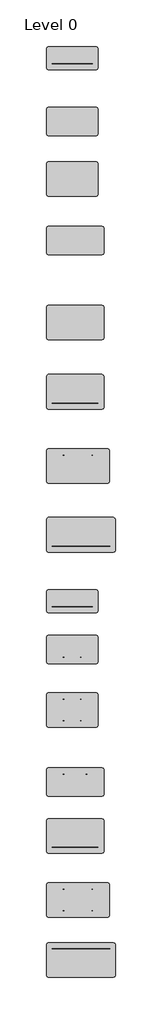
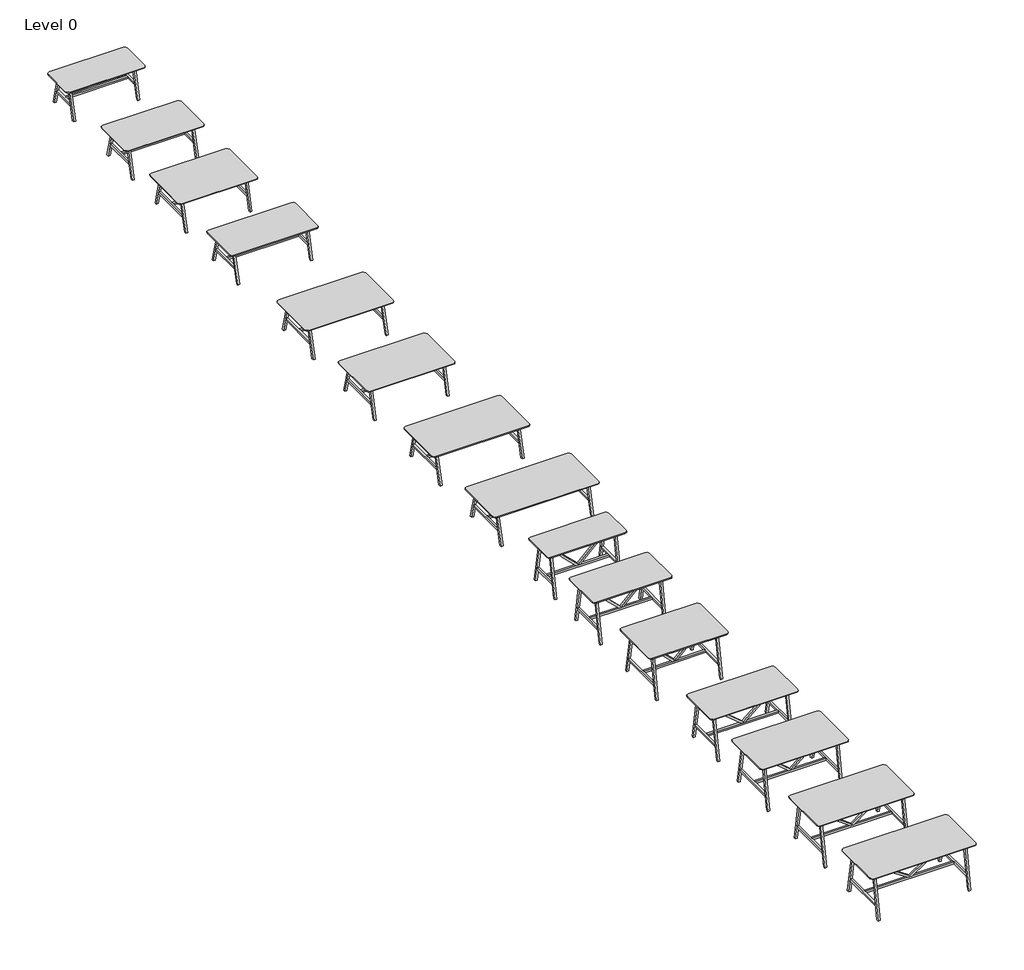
# One storey: 30 furniture elements.
"""IFC4 building model written with IfcOpenShell, lengths in millimetres."""

from ifc_helpers import new_model, si_unit, origin, place, context, project, spatial, transform, mapped, element, save
from components import furniture_91abc4a6, furniture_c43a80fd, furniture_95165e4f, furniture_568c04c6, furniture_3deafaf1, furniture_71a5d85f, furniture_51e321d0, furniture_c8895cdd, furniture_39fc326c, furniture_f843278e, furniture_71caf283, furniture_14f1f2da, furniture_3e2e6405, furniture_59f9e878, standard_d1606fe0, standard_caf0e5b7, standard_5c13200c, standard_55bfc8dd, standard_36c426fe, standard_6c16a902, standard_f65d799b

model = new_model("IFC4")

# Units and contexts
model_context = context("Model", 3, world=origin())
ifc_project = project(units=[si_unit("LENGTHUNIT", "METRE", prefix="MILLI")], contexts=[model_context])

# Site, building, storey
site = spatial("IfcSite", under=ifc_project)
building = spatial("IfcBuilding", under=site)
storey = spatial("IfcBuildingStorey", under=building, Name="Level 0", Elevation=0.0)

# Furniture
placement = place(None, origin())
furniture_shape = furniture_91abc4a6(model_context)
element("IfcFurniture", 1, ObjectType="BDG_BossDesign_Tbls_AgentTables4Legs : AGE-DT-1800-800-3D", at=placement, inside=storey, context=model_context, shape_type="MappedRepresentation", body=[
    mapped(furniture_shape, transform((-98139.9901916, 51070.7688672, 0.0), x_axis=(1.0, 0.0, 0.0), y_axis=(0.0, 1.0, 0.0), z_axis=(0.0, 0.0, 1.0))),
])
furniture_2_shape = furniture_c43a80fd(model_context)
element("IfcFurniture", 2, ObjectType="BDG_BossDesign_Tbls_AgentTables4Legs : AGE-DT-1800-1000-3D", at=placement, inside=storey, context=model_context, shape_type="MappedRepresentation", body=[
    mapped(furniture_2_shape, transform((-98139.9901916, 48865.2296395, 0.0), x_axis=(1.0, 0.0, 0.0), y_axis=(0.0, 1.0, 0.0), z_axis=(0.0, 0.0, 1.0))),
])
furniture_3_shape = furniture_95165e4f(model_context)
element("IfcFurniture", 3, ObjectType="BDG_BossDesign_Tbls_AgentTables4Legs : AGE-DT-2000-1000-3D", at=placement, inside=storey, context=model_context, shape_type="MappedRepresentation", body=[
    mapped(furniture_3_shape, transform((-98039.9901916, 44730.9323749, 0.0), x_axis=(1.0, 0.0, 0.0), y_axis=(0.0, 1.0, 0.0), z_axis=(0.0, 0.0, 1.0))),
])
furniture_4_shape = furniture_568c04c6(model_context)
element("IfcFurniture", 4, ObjectType="BDG_BossDesign_Tbls_AgentTables4Legs : AGE-DT-1800-1200-3D", at=placement, inside=storey, context=model_context, shape_type="MappedRepresentation", body=[
    mapped(furniture_4_shape, transform((-98139.9901916, 46872.7972228, 0.0), x_axis=(1.0, 0.0, 0.0), y_axis=(0.0, 1.0, 0.0), z_axis=(0.0, 0.0, 1.0))),
])
furniture_5_shape = furniture_3deafaf1(model_context)
element("IfcFurniture", 5, ObjectType="BDG_BossDesign_Tbls_AgentTables4Legs : AGE-DT-2000-1200-3D", at=placement, inside=storey, context=model_context, shape_type="MappedRepresentation", body=[
    mapped(furniture_5_shape, transform((-98039.9901916, 41879.2634785, 0.0), x_axis=(1.0, 0.0, 0.0), y_axis=(0.0, 1.0, 0.0), z_axis=(0.0, 0.0, 1.0))),
])
element("IfcFurniture", 6, ObjectType="BDG_BossDesign_Tbls_AgentTables4Legs : AGE-DT-2000-1200-3D", at=placement, inside=storey, context=model_context, shape_type="MappedRepresentation", body=[
    mapped(furniture_5_shape, transform((-98039.9901916, 39475.8918759, 0.0), x_axis=(1.0, 0.0, 0.0), y_axis=(0.0, 1.0, 0.0), z_axis=(0.0, 0.0, 1.0))),
])
furniture_6_shape = furniture_71a5d85f(model_context)
element("IfcFurniture", 7, ObjectType="BDG_BossDesign_Tbls_AgentTables4Legs : AGE-DT-2200-1200-3D", at=placement, inside=storey, context=model_context, shape_type="MappedRepresentation", body=[
    mapped(furniture_6_shape, transform((-97939.9901916, 36898.1824368, 0.0), x_axis=(1.0, 0.0, 0.0), y_axis=(0.0, 1.0, 0.0), z_axis=(0.0, 0.0, 1.0))),
])
furniture_7_shape = furniture_51e321d0(model_context)
element("IfcFurniture", 8, ObjectType="BDG_BossDesign_Tbls_AgentTables4Legs : AGE-DT-2400-1200-3D", at=placement, inside=storey, context=model_context, shape_type="MappedRepresentation", body=[
    mapped(furniture_7_shape, transform((-97839.9901916, 34507.2635368, 0.0), x_axis=(1.0, 0.0, 0.0), y_axis=(0.0, 1.0, 0.0), z_axis=(0.0, 0.0, 1.0))),
])
furniture_8_shape = furniture_c8895cdd(model_context)
element("IfcFurniture", 9, ObjectType="BDG_BossDesign_Tbls_AgentTables4Legs : AGE-HT-1800-800-3D", at=placement, inside=storey, context=model_context, shape_type="MappedRepresentation", body=[
    mapped(furniture_8_shape, transform((-98139.9901916, 32203.513555, 0.0), x_axis=(1.0, 0.0, 0.0), y_axis=(0.0, 1.0, 0.0), z_axis=(0.0, 0.0, 1.0))),
])
furniture_9_shape = furniture_39fc326c(model_context)
element("IfcFurniture", 10, ObjectType="BDG_BossDesign_Tbls_AgentTables4Legs : AGE-HT-1800-1000-3D", at=placement, inside=storey, context=model_context, shape_type="MappedRepresentation", body=[
    mapped(furniture_9_shape, transform((-98139.9901916, 30522.3987034, 0.0), x_axis=(1.0, 0.0, 0.0), y_axis=(0.0, 1.0, 0.0), z_axis=(0.0, 0.0, 1.0))),
])
furniture_10_shape = furniture_f843278e(model_context)
element("IfcFurniture", 11, ObjectType="BDG_BossDesign_Tbls_AgentTables4Legs : AGE-HT-1800-1200-3D", at=placement, inside=storey, context=model_context, shape_type="MappedRepresentation", body=[
    mapped(furniture_10_shape, transform((-98139.9901916, 28417.8919633, 0.0), x_axis=(1.0, 0.0, 0.0), y_axis=(0.0, 1.0, 0.0), z_axis=(0.0, 0.0, 1.0))),
])
furniture_11_shape = furniture_71caf283(model_context)
element("IfcFurniture", 12, ObjectType="BDG_BossDesign_Tbls_AgentTables4Legs : AGE-HT-2000-1000-3D", at=placement, inside=storey, context=model_context, shape_type="MappedRepresentation", body=[
    mapped(furniture_11_shape, transform((-98039.9901916, 25914.8987399, 0.0), x_axis=(1.0, 0.0, 0.0), y_axis=(0.0, 1.0, 0.0), z_axis=(0.0, 0.0, 1.0))),
])
furniture_12_shape = furniture_14f1f2da(model_context)
element("IfcFurniture", 13, ObjectType="BDG_BossDesign_Tbls_AgentTables4Legs : AGE-HT-2000-1200-3D", at=placement, inside=storey, context=model_context, shape_type="MappedRepresentation", body=[
    mapped(furniture_12_shape, transform((-98039.9901916, 24046.9933492, 0.0), x_axis=(1.0, 0.0, 0.0), y_axis=(0.0, 1.0, 0.0), z_axis=(0.0, 0.0, 1.0))),
])
furniture_13_shape = furniture_3e2e6405(model_context)
element("IfcFurniture", 14, ObjectType="BDG_BossDesign_Tbls_AgentTables4Legs : AGE-HT-2200-1200-3D", at=placement, inside=storey, context=model_context, shape_type="MappedRepresentation", body=[
    mapped(furniture_13_shape, transform((-97939.9901916, 21817.959583, 0.0), x_axis=(1.0, 0.0, 0.0), y_axis=(0.0, 1.0, 0.0), z_axis=(0.0, 0.0, 1.0))),
])
furniture_14_shape = furniture_59f9e878(model_context)
element("IfcFurniture", 15, ObjectType="BDG_BossDesign_Tbls_AgentTables4Legs : AGE-HT-2400-1200-3D", at=placement, inside=storey, context=model_context, shape_type="MappedRepresentation", body=[
    mapped(furniture_14_shape, transform((-97839.9901916, 19725.9055455, 0.0), x_axis=(1.0, 0.0, 0.0), y_axis=(0.0, 1.0, 0.0), z_axis=(0.0, 0.0, 1.0))),
])
standard_shape = standard_d1606fe0(model_context)
element("IfcFurniture", 16, ObjectType="BDG_BossDesign_Tbls_AgentTables4Legs_Nested : Standard", at=placement, inside=storey, context=model_context, shape_type="MappedRepresentation", body=[
    mapped(standard_shape, transform((-98139.9901916, 51070.7688672, 0.0), x_axis=(1.0, 0.0, 0.0), y_axis=(0.0, 1.0, 0.0), z_axis=(0.0, 0.0, 1.0))),
])
element("IfcFurniture", 17, ObjectType="BDG_BossDesign_Tbls_AgentTables4Legs_Nested : Standard", at=placement, inside=storey, context=model_context, shape_type="MappedRepresentation", body=[
    mapped(standard_shape, transform((-98139.9901916, 32203.513555, 310.0), x_axis=(1.0, 0.0, 0.0), y_axis=(0.0, 1.0, 0.0), z_axis=(0.0, 0.0, 1.0))),
])
standard_2_shape = standard_caf0e5b7(model_context)
element("IfcFurniture", 18, ObjectType="BDG_BossDesign_Tbls_AgentTables4Legs_Nested : Standard", at=placement, inside=storey, context=model_context, shape_type="MappedRepresentation", body=[
    mapped(standard_2_shape, transform((-98139.9901916, 48865.2296395, 0.0), x_axis=(1.0, 0.0, 0.0), y_axis=(0.0, 1.0, 0.0), z_axis=(0.0, 0.0, 1.0))),
])
element("IfcFurniture", 19, ObjectType="BDG_BossDesign_Tbls_AgentTables4Legs_Nested : Standard", at=placement, inside=storey, context=model_context, shape_type="MappedRepresentation", body=[
    mapped(standard_2_shape, transform((-98139.9901916, 30522.3987034, 310.0), x_axis=(1.0, 0.0, 0.0), y_axis=(0.0, 1.0, 0.0), z_axis=(0.0, 0.0, 1.0))),
])
standard_3_shape = standard_5c13200c(model_context)
element("IfcFurniture", 20, ObjectType="BDG_BossDesign_Tbls_AgentTables4Legs_Nested : Standard", at=placement, inside=storey, context=model_context, shape_type="MappedRepresentation", body=[
    mapped(standard_3_shape, transform((-98139.9901916, 46872.7972228, 0.0), x_axis=(1.0, 0.0, 0.0), y_axis=(0.0, 1.0, 0.0), z_axis=(0.0, 0.0, 1.0))),
])
element("IfcFurniture", 21, ObjectType="BDG_BossDesign_Tbls_AgentTables4Legs_Nested : Standard", at=placement, inside=storey, context=model_context, shape_type="MappedRepresentation", body=[
    mapped(standard_3_shape, transform((-98139.9901916, 28417.8919633, 310.0), x_axis=(1.0, 0.0, 0.0), y_axis=(0.0, 1.0, 0.0), z_axis=(0.0, 0.0, 1.0))),
])
standard_4_shape = standard_55bfc8dd(model_context)
element("IfcFurniture", 22, ObjectType="BDG_BossDesign_Tbls_AgentTables4Legs_Nested : Standard", at=placement, inside=storey, context=model_context, shape_type="MappedRepresentation", body=[
    mapped(standard_4_shape, transform((-98039.9901916, 44730.9323749, 0.0), x_axis=(1.0, 0.0, 0.0), y_axis=(0.0, 1.0, 0.0), z_axis=(0.0, 0.0, 1.0))),
])
element("IfcFurniture", 23, ObjectType="BDG_BossDesign_Tbls_AgentTables4Legs_Nested : Standard", at=placement, inside=storey, context=model_context, shape_type="MappedRepresentation", body=[
    mapped(standard_4_shape, transform((-98039.9901916, 25914.8987399, 310.0), x_axis=(1.0, 0.0, 0.0), y_axis=(0.0, 1.0, 0.0), z_axis=(0.0, 0.0, 1.0))),
])
standard_5_shape = standard_36c426fe(model_context)
element("IfcFurniture", 24, ObjectType="BDG_BossDesign_Tbls_AgentTables4Legs_Nested : Standard", at=placement, inside=storey, context=model_context, shape_type="MappedRepresentation", body=[
    mapped(standard_5_shape, transform((-98039.9901916, 41879.2634785, 0.0), x_axis=(1.0, 0.0, 0.0), y_axis=(0.0, 1.0, 0.0), z_axis=(0.0, 0.0, 1.0))),
])
element("IfcFurniture", 25, ObjectType="BDG_BossDesign_Tbls_AgentTables4Legs_Nested : Standard", at=placement, inside=storey, context=model_context, shape_type="MappedRepresentation", body=[
    mapped(standard_5_shape, transform((-98039.9901916, 39475.8918759, 0.0), x_axis=(1.0, 0.0, 0.0), y_axis=(0.0, 1.0, 0.0), z_axis=(0.0, 0.0, 1.0))),
])
element("IfcFurniture", 26, ObjectType="BDG_BossDesign_Tbls_AgentTables4Legs_Nested : Standard", at=placement, inside=storey, context=model_context, shape_type="MappedRepresentation", body=[
    mapped(standard_5_shape, transform((-98039.9901916, 24046.9933492, 310.0), x_axis=(1.0, 0.0, 0.0), y_axis=(0.0, 1.0, 0.0), z_axis=(0.0, 0.0, 1.0))),
])
standard_6_shape = standard_6c16a902(model_context)
element("IfcFurniture", 27, ObjectType="BDG_BossDesign_Tbls_AgentTables4Legs_Nested : Standard", at=placement, inside=storey, context=model_context, shape_type="MappedRepresentation", body=[
    mapped(standard_6_shape, transform((-97939.9901916, 36898.1824368, 0.0), x_axis=(1.0, 0.0, 0.0), y_axis=(0.0, 1.0, 0.0), z_axis=(0.0, 0.0, 1.0))),
])
element("IfcFurniture", 28, ObjectType="BDG_BossDesign_Tbls_AgentTables4Legs_Nested : Standard", at=placement, inside=storey, context=model_context, shape_type="MappedRepresentation", body=[
    mapped(standard_6_shape, transform((-97939.9901916, 21817.959583, 310.0), x_axis=(1.0, 0.0, 0.0), y_axis=(0.0, 1.0, 0.0), z_axis=(0.0, 0.0, 1.0))),
])
standard_7_shape = standard_f65d799b(model_context)
element("IfcFurniture", 29, ObjectType="BDG_BossDesign_Tbls_AgentTables4Legs_Nested : Standard", at=placement, inside=storey, context=model_context, shape_type="MappedRepresentation", body=[
    mapped(standard_7_shape, transform((-97839.9901916, 34507.2635368, 0.0), x_axis=(1.0, 0.0, 0.0), y_axis=(0.0, 1.0, 0.0), z_axis=(0.0, 0.0, 1.0))),
])
element("IfcFurniture", 30, ObjectType="BDG_BossDesign_Tbls_AgentTables4Legs_Nested : Standard", at=placement, inside=storey, context=model_context, shape_type="MappedRepresentation", body=[
    mapped(standard_7_shape, transform((-97839.9901916, 19725.9055455, 310.0), x_axis=(1.0, 0.0, 0.0), y_axis=(0.0, 1.0, 0.0), z_axis=(0.0, 0.0, 1.0))),
])

save(model, "model.ifc")
